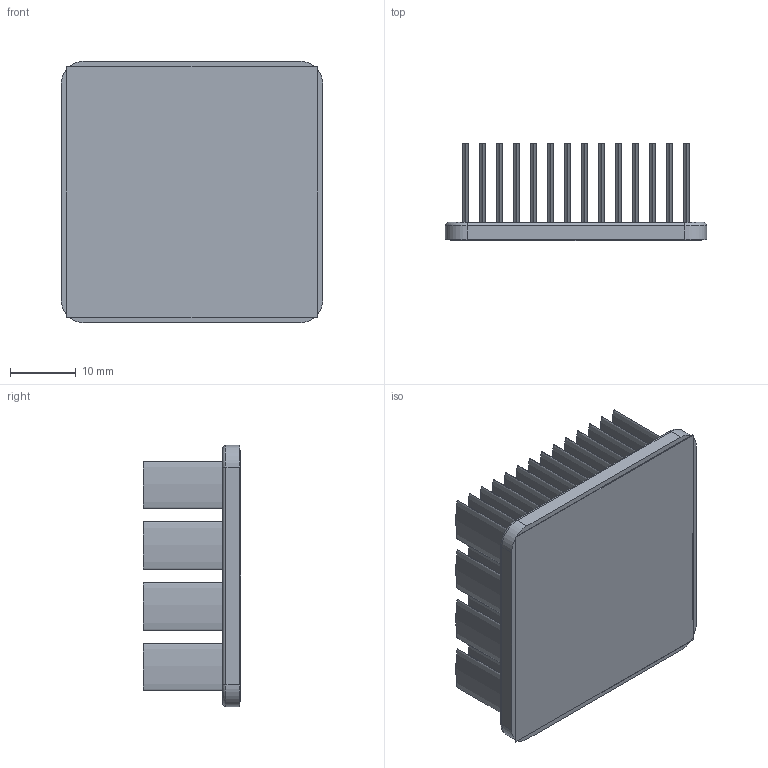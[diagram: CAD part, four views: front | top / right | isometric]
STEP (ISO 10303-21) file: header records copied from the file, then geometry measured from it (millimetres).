
FILE_DESCRIPTION (( 'STEP AP214' ), '1' );
FILE_NAME ('INM40001-15W-2.6.STEP', '2023-02-21T17:38:03', ( '' ), ( '' ), 'SwSTEP 2.0', 'SolidWorks 2020', '' );
FILE_SCHEMA (( 'AUTOMOTIVE_DESIGN' ));
Length unit declared in the file: inch
Products named in the file (1): INM40001-15W-2.6
Bounding box: 39.6 x 14.73 x 39.6 mm (x, y, z)
Volume: 7322.5 mm3; surface area: 16273.4 mm2
Topology: 2 solids, 2 shells, 192 faces, 388 edges, 256 vertices
Faces by surface type: bspline 112, plane 68, cylinder 8, torus 4
Entity records: 7791 total; most frequent: CARTESIAN_POINT 2293, ORIENTED_EDGE 776, EDGE_CURVE 388, DIRECTION 346, VERTEX_POINT 256, EDGE_LOOP 248, LENGTH_MEASURE_WITH_UNIT 196, DIMENSIONAL_EXPONENTS 196
